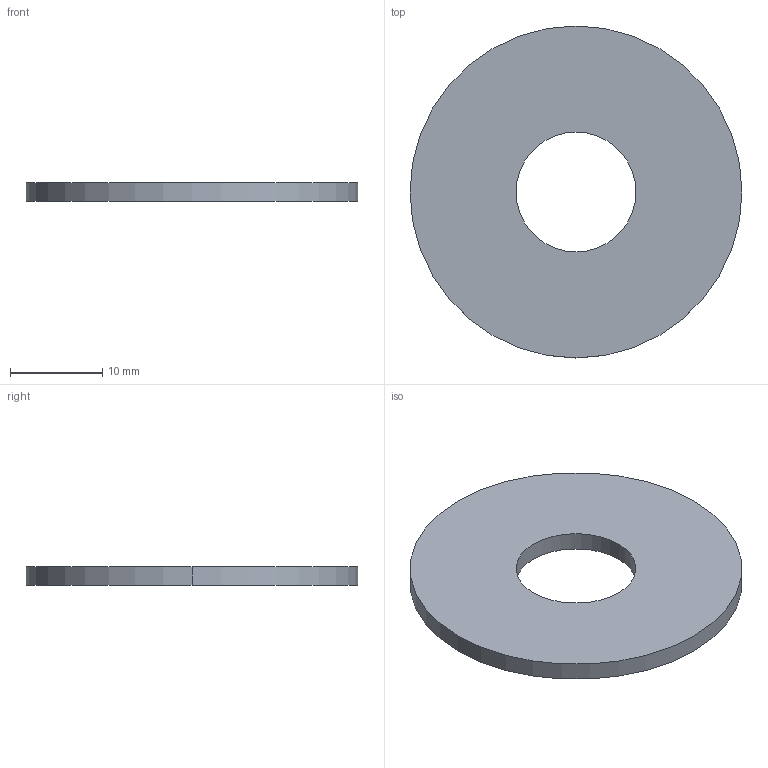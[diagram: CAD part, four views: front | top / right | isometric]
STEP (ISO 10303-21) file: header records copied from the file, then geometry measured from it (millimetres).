
FILE_DESCRIPTION (( 'STEP AP203' ), '1' );
FILE_NAME ('P0333.120-036-A4.step', '2018-12-17T19:09:20', ( '' ), ( '' ), 'SwSTEP 2.0', 'SolidWorks 2017', '' );
FILE_SCHEMA (( 'CONFIG_CONTROL_DESIGN' ));
Length unit declared in the file: millimetre
Products named in the file (1): P0333.120-036-A4
Bounding box: 36 x 36 x 2 mm (x, y, z)
Volume: 1770.3 mm3; surface area: 2078.2 mm2
Topology: 1 solids, 1 shells, 6 faces, 12 edges, 8 vertices
Faces by surface type: cylinder 4, plane 2
Entity records: 245 total; most frequent: DIRECTION 34, CARTESIAN_POINT 27, ORIENTED_EDGE 24, AXIS2_PLACEMENT_3D 15, EDGE_CURVE 12, EDGE_LOOP 8, PERSON_AND_ORGANIZATION 8, CIRCLE 8
